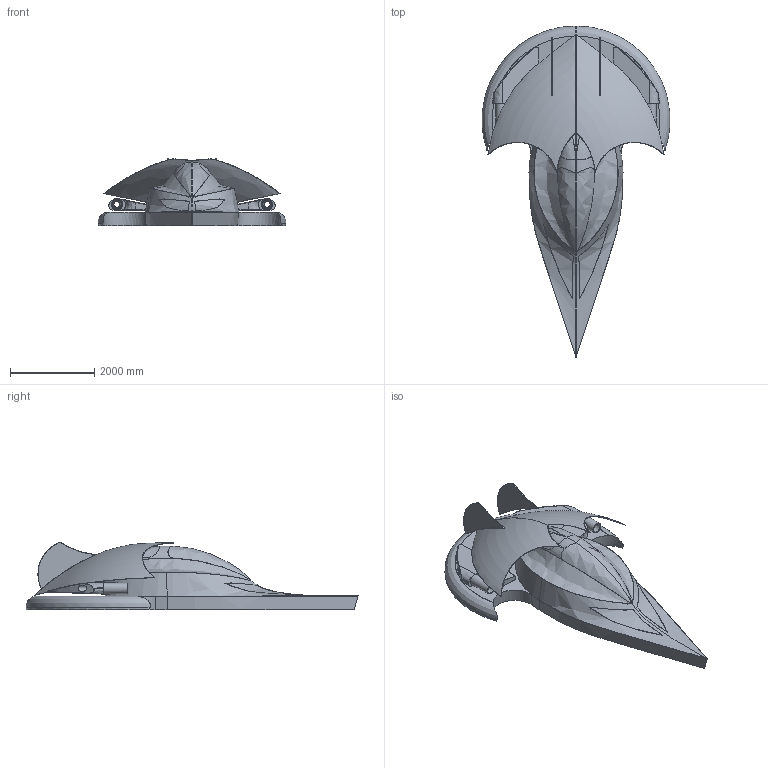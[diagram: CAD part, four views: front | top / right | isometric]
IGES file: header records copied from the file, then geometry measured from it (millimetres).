
Start section: ZWSOFT
Global section: file name: HoverWing_2.igs; native system: ZW3D; preprocessor: 1.0; author: ZW3D; organization: ZWSOFT; date: 120417.131643; units: millimetre
Bounding box: 4474.07 x 7904.2 x 1601.68 mm (x, y, z)
Surface area: 87831295.4 mm2 (no closed solid volume)
Topology: 0 solids, 0 shells, 412 faces, 1967 edges, 2073 vertices
Faces by surface type: bspline 412
